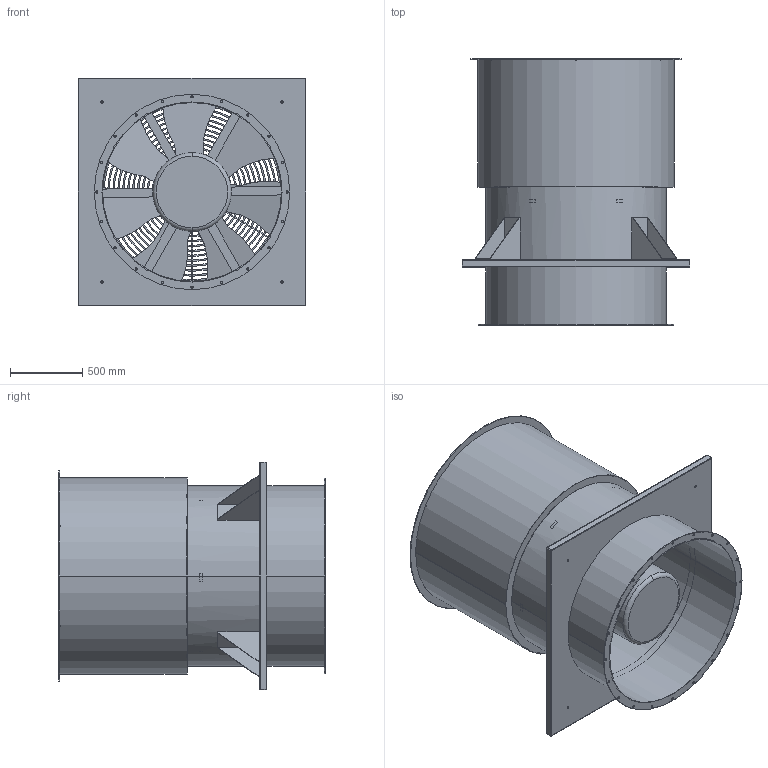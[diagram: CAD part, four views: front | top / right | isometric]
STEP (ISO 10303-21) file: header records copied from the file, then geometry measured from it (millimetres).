
FILE_DESCRIPTION(('STEP AP214'),'1');
FILE_NAME('hght-v-1250.stp','2017-09-12T16:26:01',('TraceParts'),('TraceParts S.A.'),'Spatial InterOp 3D',' ',' ');
FILE_SCHEMA(('automotive_design'));
Length unit declared in the file: millimetre
Products named in the file (1): hght-v-1250
Bounding box: 1580 x 1848 x 1580 mm (x, y, z)
Volume: 315910537.3 mm3; surface area: 25487124.6 mm2
Topology: 1 solids, 1 shells, 547 faces, 1719 edges, 946 vertices
Faces by surface type: torus 308, cylinder 122, plane 109, sphere 8
Entity records: 46717 total; most frequent: CARTESIAN_POINT 27361, ORIENTED_EDGE 3422, DIRECTION 3035, EDGE_CURVE 1711, AXIS2_PLACEMENT_3D 1244, VERTEX_POINT 946, CIRCLE 652, EDGE_LOOP 625
